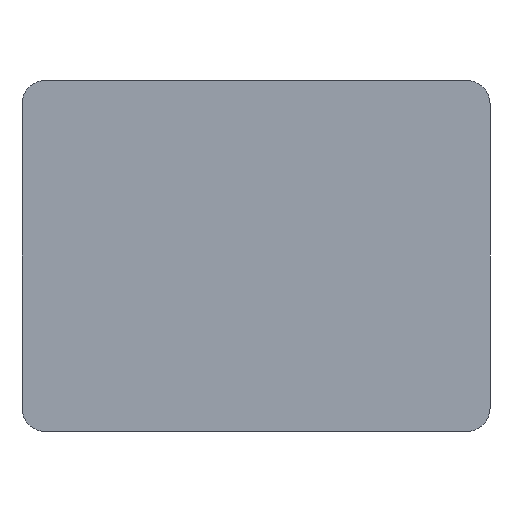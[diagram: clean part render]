
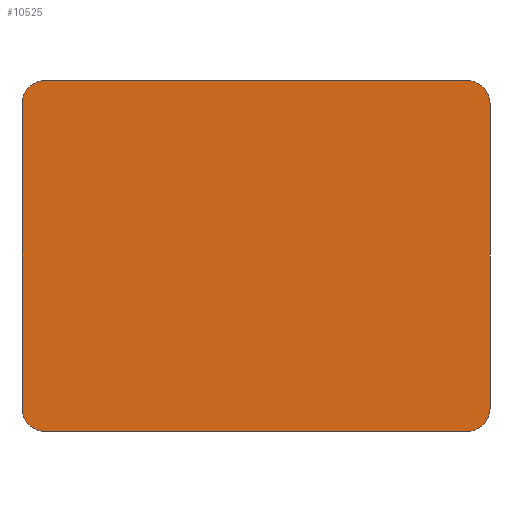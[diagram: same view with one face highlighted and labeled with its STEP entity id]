
A CAD part, left-side view. The second image highlights one B-rep face of the part: STEP entity #10525.
In plain terms, the highlighted planar face has unit normal (-1, 0, 0).
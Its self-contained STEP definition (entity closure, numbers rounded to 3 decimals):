
#1328=PLANE('',#10836);
#1875=FACE_OUTER_BOUND('',#2489,.T.);
#2489=EDGE_LOOP('',(#9736,#9737,#9738,#9739,#9740,#9741,#9742,#9743));
#3282=LINE('',#21066,#4075);
#3298=LINE('',#21191,#4091);
#3301=LINE('',#21196,#4094);
#3302=LINE('',#21200,#4095);
#4075=VECTOR('',#12040,10.);
#4091=VECTOR('',#12140,10.);
#4094=VECTOR('',#12145,10.);
#4095=VECTOR('',#12148,10.);
#4152=CIRCLE('',#10810,5.);
#4163=CIRCLE('',#10826,5.);
#4169=CIRCLE('',#10837,5.);
#4170=CIRCLE('',#10838,5.);
#5169=VERTEX_POINT('',#21060);
#5171=VERTEX_POINT('',#21064);
#5176=VERTEX_POINT('',#21098);
#5177=VERTEX_POINT('',#21100);
#5191=VERTEX_POINT('',#21158);
#5198=VERTEX_POINT('',#21190);
#5200=VERTEX_POINT('',#21197);
#5201=VERTEX_POINT('',#21199);
#6688=EDGE_CURVE('',#5171,#5169,#3282,.T.);
#6695=EDGE_CURVE('',#5176,#5177,#4152,.T.);
#6716=EDGE_CURVE('',#5169,#5191,#4163,.T.);
#6728=EDGE_CURVE('',#5177,#5198,#3298,.T.);
#6731=EDGE_CURVE('',#5191,#5176,#3301,.T.);
#6732=EDGE_CURVE('',#5200,#5171,#4169,.T.);
#6733=EDGE_CURVE('',#5201,#5200,#3302,.T.);
#6734=EDGE_CURVE('',#5198,#5201,#4170,.T.);
#9736=ORIENTED_EDGE('',*,*,#6695,.F.);
#9737=ORIENTED_EDGE('',*,*,#6731,.F.);
#9738=ORIENTED_EDGE('',*,*,#6716,.F.);
#9739=ORIENTED_EDGE('',*,*,#6688,.F.);
#9740=ORIENTED_EDGE('',*,*,#6732,.F.);
#9741=ORIENTED_EDGE('',*,*,#6733,.F.);
#9742=ORIENTED_EDGE('',*,*,#6734,.F.);
#9743=ORIENTED_EDGE('',*,*,#6728,.F.);
#10525=ADVANCED_FACE('',(#1875),#1328,.F.);
#10810=AXIS2_PLACEMENT_3D('',#21101,#12075,#12076);
#10826=AXIS2_PLACEMENT_3D('',#21159,#12115,#12116);
#10836=AXIS2_PLACEMENT_3D('',#21195,#12143,#12144);
#10837=AXIS2_PLACEMENT_3D('',#21198,#12146,#12147);
#10838=AXIS2_PLACEMENT_3D('',#21201,#12149,#12150);
#12040=DIRECTION('',(0.,0.,-1.));
#12075=DIRECTION('center_axis',(1.,0.,0.));
#12076=DIRECTION('ref_axis',(0.,0.707,-0.707));
#12115=DIRECTION('center_axis',(1.,0.,0.));
#12116=DIRECTION('ref_axis',(0.,-0.707,-0.707));
#12140=DIRECTION('',(0.,0.,1.));
#12143=DIRECTION('center_axis',(1.,0.,0.));
#12144=DIRECTION('ref_axis',(0.,1.,0.));
#12145=DIRECTION('',(0.,1.,0.));
#12146=DIRECTION('center_axis',(1.,0.,0.));
#12147=DIRECTION('ref_axis',(0.,-0.707,0.707));
#12148=DIRECTION('',(0.,-1.,0.));
#12149=DIRECTION('center_axis',(1.,0.,0.));
#12150=DIRECTION('ref_axis',(0.,0.707,0.707));
#21060=CARTESIAN_POINT('',(0.,0.,5.));
#21064=CARTESIAN_POINT('',(0.,0.,70.));
#21066=CARTESIAN_POINT('',(0.,0.,75.));
#21098=CARTESIAN_POINT('',(0.,95.,0.));
#21100=CARTESIAN_POINT('',(0.,100.,5.));
#21101=CARTESIAN_POINT('Origin',(0.,95.,5.));
#21158=CARTESIAN_POINT('',(0.,5.,0.));
#21159=CARTESIAN_POINT('Origin',(0.,5.,5.));
#21190=CARTESIAN_POINT('',(0.,100.,70.));
#21191=CARTESIAN_POINT('',(0.,100.,0.));
#21195=CARTESIAN_POINT('Origin',(0.,50.,37.5));
#21196=CARTESIAN_POINT('',(0.,0.,0.));
#21197=CARTESIAN_POINT('',(0.,5.,75.));
#21198=CARTESIAN_POINT('Origin',(0.,5.,70.));
#21199=CARTESIAN_POINT('',(0.,95.,75.));
#21200=CARTESIAN_POINT('',(0.,100.,75.));
#21201=CARTESIAN_POINT('Origin',(0.,95.,70.));
